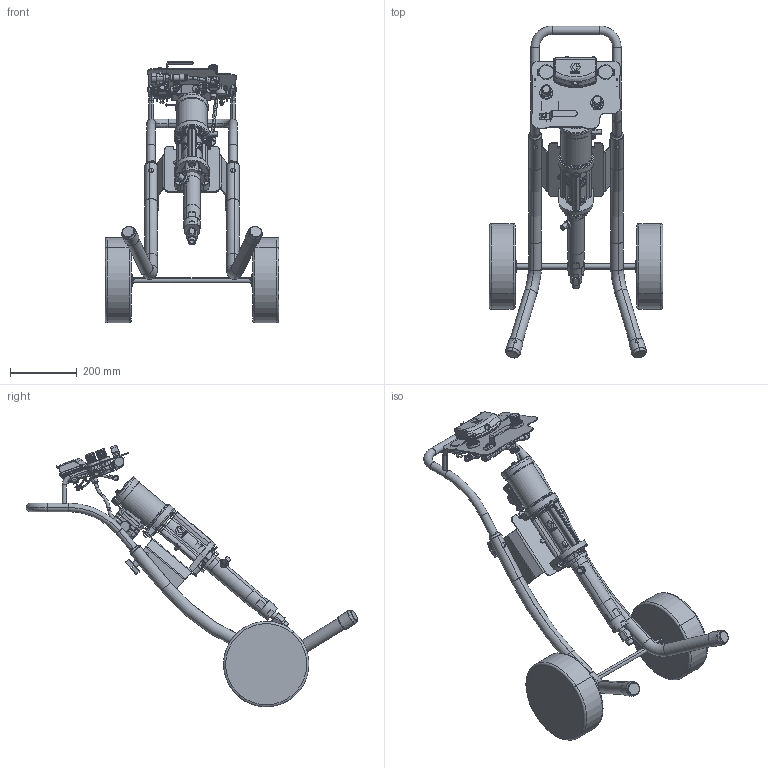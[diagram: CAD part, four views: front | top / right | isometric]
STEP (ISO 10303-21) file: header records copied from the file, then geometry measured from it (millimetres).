
FILE_DESCRIPTION((''),'2;1');
FILE_NAME('G15C01-EN-R_PRT','2022-02-14T15:07:37',('qtmwp1'),(''),'CREO PARAMETRIC BY PTC INC, 2021072','CREO PARAMETRIC BY PTC INC, 2021072','');
FILE_SCHEMA(('CONFIG_CONTROL_DESIGN'));
Products named in the file (1): G15C01-EN-R_PRT
Bounding box: 519.43 x 991.61 x 782.32 mm (x, y, z)
Surface area: 1443059.2 mm2 (no closed solid volume)
Topology: 0 solids, 323 shells, 1908 faces, 7526 edges, 5665 vertices
Faces by surface type: plane 650, cylinder 618, cone 315, torus 197, bspline 107, extrusion 15, sphere 6
Entity records: 100908 total; most frequent: CARTESIAN_POINT 43309, DIRECTION 11559, ORIENTED_EDGE 10476, EDGE_CURVE 7507, VERTEX_POINT 5664, AXIS2_PLACEMENT_3D 4375, VECTOR 2809, LINE 2794
